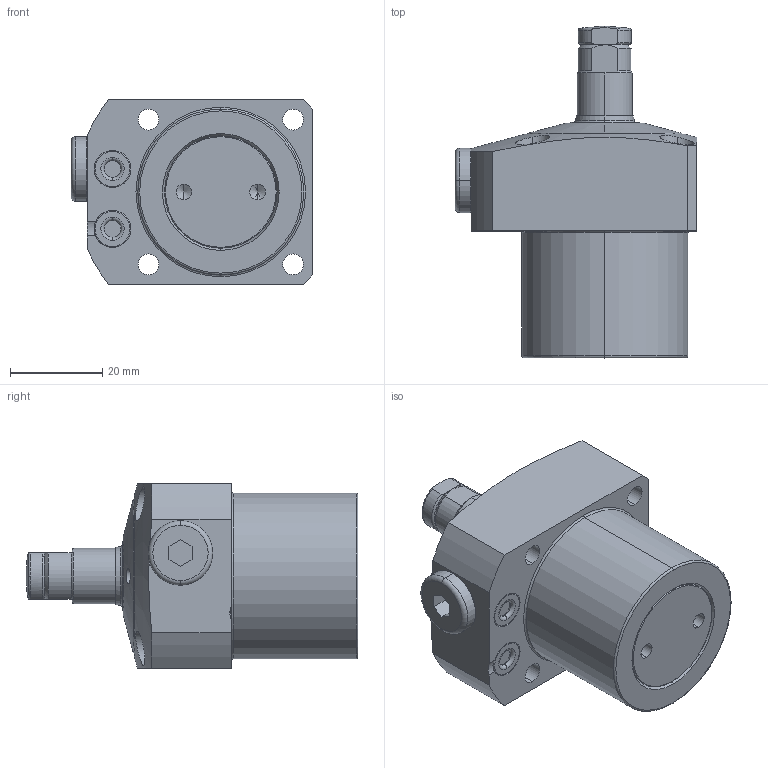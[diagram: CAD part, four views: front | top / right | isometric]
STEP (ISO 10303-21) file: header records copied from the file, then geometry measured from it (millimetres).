
FILE_DESCRIPTION(/* description */ (''),/* implementation_level */ '2;1');
FILE_NAME(/* name */ 'KFSS36.stp',/* time_stamp */ '2026-02-06T09:46:28+08:00',/* author */ (''),/* organization */ (''),/* preprocessor_version */ 'ST-DEVELOPER v16.7',/* originating_system */ 'SIEMENS PLM Software NX 12.0',/* authorisation */ '');
FILE_SCHEMA (('AUTOMOTIVE_DESIGN { 1 0 10303 214 3 1 1 1 }'));
Length unit declared in the file: millimetre
Products named in the file (8): XLD-M8_Oring; XLD-M8_contactbolt; KFSS36-04; KFSS36-02; KFSS36-05; KFSS36-01; KFSS36-03; LC0363-Cx-E_step
Assembly tree (8 placements, depth 3):
  LC0363-Cx-E_step
    KFSS36-01
    KFSS36-05  x2
    KFSS36-02
    KFSS36-03
      XLD-M8_contactbolt
      XLD-M8_Oring
    KFSS36-04
Bounding box: 52.5 x 72 x 40 mm (x, y, z)
Volume: 67594.2 mm3; surface area: 15151.5 mm2
Topology: 7 solids, 7 shells, 233 faces, 512 edges, 308 vertices
Faces by surface type: cylinder 77, torus 60, plane 53, cone 41, sphere 2
Entity records: 6842 total; most frequent: CARTESIAN_POINT 1561, DIRECTION 1181, ORIENTED_EDGE 960, AXIS2_PLACEMENT_3D 511, EDGE_CURVE 480, VERTEX_POINT 294, CIRCLE 281, EDGE_LOOP 256
